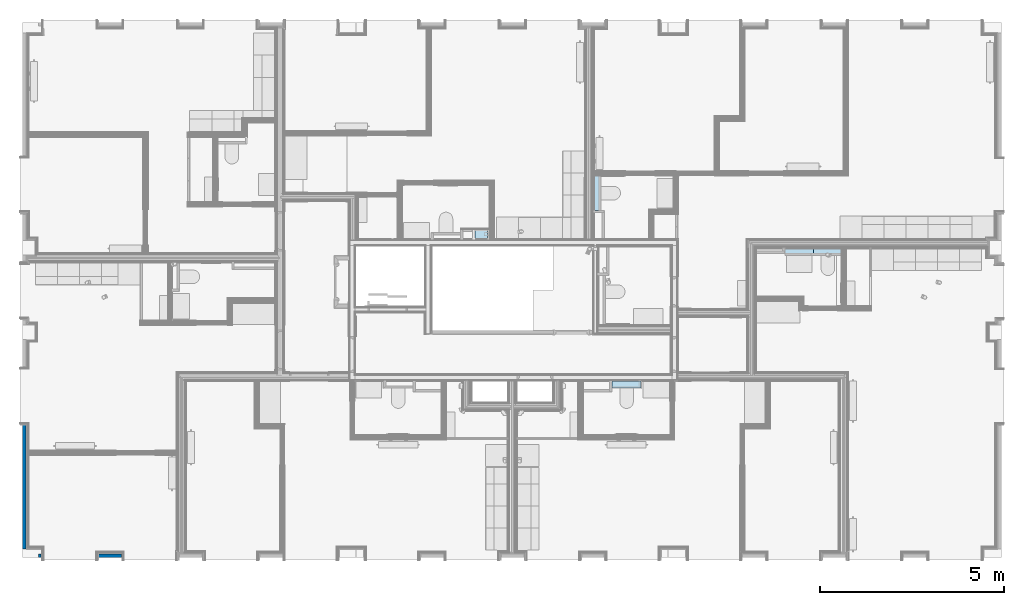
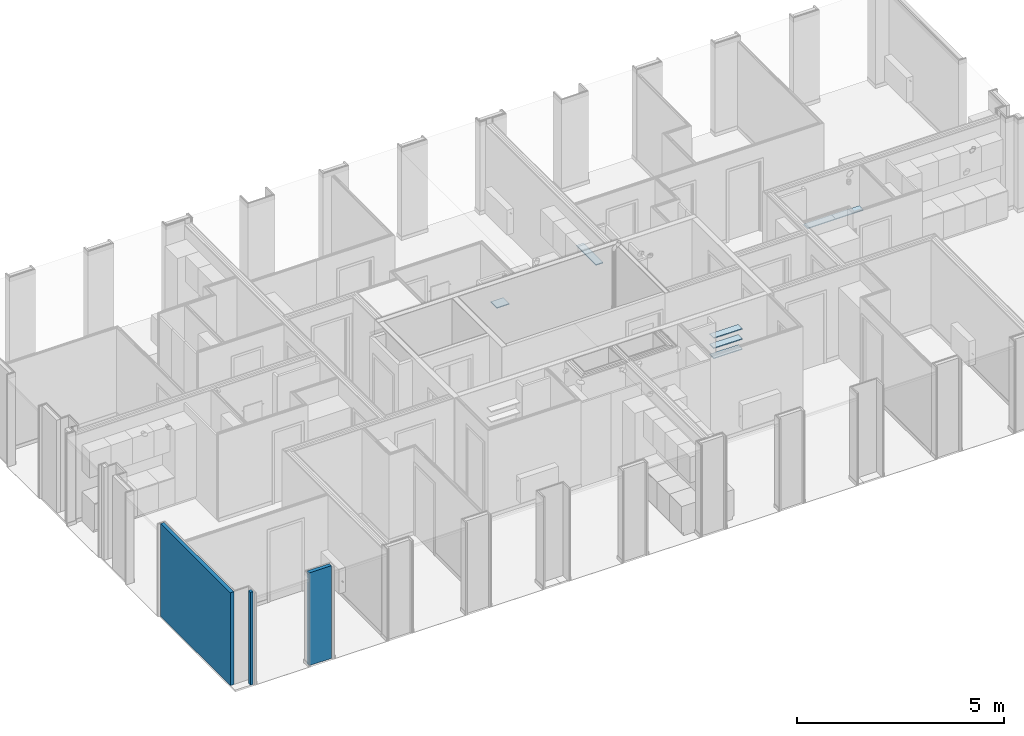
# One storey, part 1 of 85: 7 slabs, 3 walls.
"""IFC2X3 building model written with IfcOpenShell, lengths in metres."""

from ifc_helpers import new_model, entity, si_unit, converted_unit, derived_unit, money_unit, direction, frame, frame_2d, origin_with_axes, place, context, subcontext, project, spatial, rectangle, extrude, faceted_brep, material, layer, layer_set, layer_usage, type_object, element, save


model = new_model("IFC2X3")

# Units and contexts
model_context = context("Model", 3, precision=1e-05, world=origin_with_axes(), true_north=direction((0.0, 1.0)))
body_context = subcontext(model_context, "Body", "Model", "MODEL_VIEW", scale=1.0)
ifc_project = project(units=[si_unit("LENGTHUNIT", "METRE"), si_unit("AREAUNIT", "SQUARE_METRE"), si_unit("VOLUMEUNIT", "CUBIC_METRE"), si_unit("ABSORBEDDOSEUNIT", "GRAY"), si_unit("AMOUNTOFSUBSTANCEUNIT", "MOLE"), si_unit("DOSEEQUIVALENTUNIT", "SIEVERT"), si_unit("ELECTRICCAPACITANCEUNIT", "FARAD"), si_unit("ELECTRICCHARGEUNIT", "COULOMB"), si_unit("ELECTRICCONDUCTANCEUNIT", "SIEMENS"), si_unit("ELECTRICCURRENTUNIT", "AMPERE"), si_unit("ELECTRICRESISTANCEUNIT", "OHM"), si_unit("ELECTRICVOLTAGEUNIT", "VOLT"), si_unit("ENERGYUNIT", "JOULE"), si_unit("FORCEUNIT", "NEWTON"), si_unit("FREQUENCYUNIT", "HERTZ"), si_unit("ILLUMINANCEUNIT", "LUX"), si_unit("INDUCTANCEUNIT", "HENRY"), si_unit("LUMINOUSFLUXUNIT", "LUMEN"), si_unit("LUMINOUSINTENSITYUNIT", "CANDELA"), si_unit("MAGNETICFLUXDENSITYUNIT", "TESLA"), si_unit("MAGNETICFLUXUNIT", "WEBER"), si_unit("MASSUNIT", "GRAM"), converted_unit("PLANEANGLEUNIT", "degree", entity("IfcReal", 0.0174532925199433), si_unit("PLANEANGLEUNIT", "RADIAN"), dimensions=[0, 0, 0, 0, 0, 0, 0]), si_unit("POWERUNIT", "WATT"), si_unit("PRESSUREUNIT", "PASCAL"), si_unit("RADIOACTIVITYUNIT", "BECQUEREL"), si_unit("SOLIDANGLEUNIT", "STERADIAN"), si_unit("THERMODYNAMICTEMPERATUREUNIT", "KELVIN"), si_unit("TIMEUNIT", "SECOND"), derived_unit("ACCELERATIONUNIT", [(si_unit("LENGTHUNIT", "METRE"), 1), (si_unit("TIMEUNIT", "SECOND"), -2)]), derived_unit("ANGULARVELOCITYUNIT", [(converted_unit("PLANEANGLEUNIT", "degree", entity("IfcReal", 0.0174532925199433), si_unit("PLANEANGLEUNIT", "RADIAN"), dimensions=[0, 0, 0, 0, 0, 0, 0]), 1), (si_unit("TIMEUNIT", "SECOND"), -1)]), derived_unit("CURVATUREUNIT", [(converted_unit("PLANEANGLEUNIT", "degree", entity("IfcReal", 0.0174532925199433), si_unit("PLANEANGLEUNIT", "RADIAN"), dimensions=[0, 0, 0, 0, 0, 0, 0]), 1), (si_unit("LENGTHUNIT", "METRE"), -1)]), derived_unit("DYNAMICVISCOSITYUNIT", [(si_unit("PRESSUREUNIT", "PASCAL"), 1), (si_unit("TIMEUNIT", "SECOND"), 1)]), derived_unit("HEATFLUXDENSITYUNIT", [(si_unit("POWERUNIT", "WATT"), 1), (si_unit("LENGTHUNIT", "METRE"), -2)]), derived_unit("HEATINGVALUEUNIT", [(si_unit("ENERGYUNIT", "JOULE"), 1), (si_unit("MASSUNIT", "GRAM"), -1)]), derived_unit("INTEGERCOUNTRATEUNIT", [(si_unit("TIMEUNIT", "SECOND"), -1)]), derived_unit("IONCONCENTRATIONUNIT", [(si_unit("MASSUNIT", "GRAM"), 1), (si_unit("VOLUMEUNIT", "CUBIC_METRE"), -1)]), derived_unit("ISOTHERMALMOISTURECAPACITYUNIT", [(si_unit("VOLUMEUNIT", "CUBIC_METRE"), 1), (si_unit("MASSUNIT", "GRAM"), -1)]), derived_unit("KINEMATICVISCOSITYUNIT", [(si_unit("AREAUNIT", "SQUARE_METRE"), 1), (si_unit("TIMEUNIT", "SECOND"), -1)]), derived_unit("LINEARFORCEUNIT", [(si_unit("FORCEUNIT", "NEWTON"), 1), (si_unit("LENGTHUNIT", "METRE"), -1)]), derived_unit("LINEARMOMENTUNIT", [(si_unit("FORCEUNIT", "NEWTON"), 1), (si_unit("LENGTHUNIT", "METRE"), -1)]), derived_unit("LINEARSTIFFNESSUNIT", [(si_unit("FORCEUNIT", "NEWTON"), 1), (si_unit("LENGTHUNIT", "METRE"), -1)]), derived_unit("LINEARVELOCITYUNIT", [(si_unit("LENGTHUNIT", "METRE"), 1), (si_unit("TIMEUNIT", "SECOND"), -1)]), derived_unit("LUMINOUSINTENSITYDISTRIBUTIONUNIT", [(si_unit("LUMINOUSINTENSITYUNIT", "CANDELA"), 1), (si_unit("LUMINOUSFLUXUNIT", "LUMEN"), -1)]), derived_unit("MASSDENSITYUNIT", [(si_unit("MASSUNIT", "GRAM"), 1), (si_unit("VOLUMEUNIT", "CUBIC_METRE"), -1)]), derived_unit("MASSFLOWRATEUNIT", [(si_unit("MASSUNIT", "GRAM"), 1), (si_unit("TIMEUNIT", "SECOND"), -1)]), derived_unit("MASSPERLENGTHUNIT", [(si_unit("MASSUNIT", "GRAM"), 1), (si_unit("LENGTHUNIT", "METRE"), -1)]), derived_unit("MODULUSOFELASTICITYUNIT", [(si_unit("FORCEUNIT", "NEWTON"), 1), (si_unit("AREAUNIT", "SQUARE_METRE"), -1)]), derived_unit("MODULUSOFLINEARSUBGRADEREACTIONUNIT", [(si_unit("FORCEUNIT", "NEWTON"), 1), (si_unit("LENGTHUNIT", "METRE"), -2)]), derived_unit("MODULUSOFROTATIONALSUBGRADEREACTIONUNIT", [(si_unit("FORCEUNIT", "NEWTON"), 1), (si_unit("LENGTHUNIT", "METRE"), 1)]), derived_unit("MODULUSOFSUBGRADEREACTIONUNIT", [(si_unit("FORCEUNIT", "NEWTON"), 1), (si_unit("VOLUMEUNIT", "CUBIC_METRE"), -1)]), derived_unit("MOISTUREDIFFUSIVITYUNIT", [(si_unit("VOLUMEUNIT", "CUBIC_METRE"), 1), (si_unit("TIMEUNIT", "SECOND"), -1)]), derived_unit("MOLECULARWEIGHTUNIT", [(si_unit("MASSUNIT", "GRAM"), 1), (si_unit("AMOUNTOFSUBSTANCEUNIT", "MOLE"), -1)]), derived_unit("PLANARFORCEUNIT", [(si_unit("FORCEUNIT", "NEWTON"), 1), (si_unit("LENGTHUNIT", "METRE"), -2)]), derived_unit("ROTATIONALFREQUENCYUNIT", [(si_unit("TIMEUNIT", "SECOND"), -1)]), derived_unit("ROTATIONALMASSUNIT", [(si_unit("MASSUNIT", "GRAM"), 1), (si_unit("LENGTHUNIT", "METRE"), 2)]), derived_unit("ROTATIONALSTIFFNESSUNIT", [(si_unit("FORCEUNIT", "NEWTON"), 1), (si_unit("LENGTHUNIT", "METRE"), 1), (converted_unit("PLANEANGLEUNIT", "degree", entity("IfcReal", 0.0174532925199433), si_unit("PLANEANGLEUNIT", "RADIAN"), dimensions=[0, 0, 0, 0, 0, 0, 0]), -1)]), derived_unit("SECTIONAREAINTEGRALUNIT", [(si_unit("LENGTHUNIT", "METRE"), 5)]), derived_unit("SECTIONMODULUSUNIT", [(si_unit("LENGTHUNIT", "METRE"), 3)]), derived_unit("SHEARMODULUSUNIT", [(si_unit("FORCEUNIT", "NEWTON"), 1), (si_unit("AREAUNIT", "SQUARE_METRE"), -1)]), derived_unit("SOUNDPOWERUNIT", [(si_unit("ENERGYUNIT", "JOULE"), 1), (si_unit("TIMEUNIT", "SECOND"), -1)]), derived_unit("SPECIFICHEATCAPACITYUNIT", [(si_unit("FORCEUNIT", "NEWTON"), 1), (si_unit("MASSUNIT", "GRAM"), -1), (si_unit("THERMODYNAMICTEMPERATUREUNIT", "KELVIN"), -1)]), derived_unit("TEMPERATUREGRADIENTUNIT", [(si_unit("THERMODYNAMICTEMPERATUREUNIT", "KELVIN"), 1), (si_unit("LENGTHUNIT", "METRE"), -1)]), derived_unit("THERMALADMITTANCEUNIT", [(si_unit("POWERUNIT", "WATT"), 1), (si_unit("AREAUNIT", "SQUARE_METRE"), -1), (si_unit("THERMODYNAMICTEMPERATUREUNIT", "KELVIN"), -1)]), derived_unit("THERMALCONDUCTANCEUNIT", [(si_unit("POWERUNIT", "WATT"), 1), (si_unit("LENGTHUNIT", "METRE"), -1), (si_unit("THERMODYNAMICTEMPERATUREUNIT", "KELVIN"), -1)]), derived_unit("THERMALEXPANSIONCOEFFICIENTUNIT", [(si_unit("THERMODYNAMICTEMPERATUREUNIT", "KELVIN"), -1)]), derived_unit("THERMALRESISTANCEUNIT", [(si_unit("AREAUNIT", "SQUARE_METRE"), 1), (si_unit("POWERUNIT", "WATT"), -1)]), derived_unit("THERMALTRANSMITTANCEUNIT", [(si_unit("POWERUNIT", "WATT"), 1), (si_unit("AREAUNIT", "SQUARE_METRE"), -1), (si_unit("THERMODYNAMICTEMPERATUREUNIT", "KELVIN"), -1)]), derived_unit("TORQUEUNIT", [(si_unit("FORCEUNIT", "NEWTON"), 1), (si_unit("LENGTHUNIT", "METRE"), 1)]), derived_unit("VAPORPERMEABILITYUNIT", [(si_unit("MASSUNIT", "GRAM"), 1), (si_unit("TIMEUNIT", "SECOND"), -1)]), derived_unit("VOLUMETRICFLOWRATEUNIT", [(si_unit("VOLUMEUNIT", "CUBIC_METRE"), 1), (si_unit("TIMEUNIT", "SECOND"), -1)]), derived_unit("WARPINGCONSTANTUNIT", [(si_unit("LENGTHUNIT", "METRE"), 6)]), derived_unit("WARPINGMOMENTUNIT", [(si_unit("FORCEUNIT", "NEWTON"), 1), (si_unit("LENGTHUNIT", "METRE"), 2)]), money_unit("GBP")], contexts=[model_context])

# Site, building, storey
site_placement = place(None, origin_with_axes())
site = spatial("IfcSite", under=ifc_project, at=site_placement, Name="Site", CompositionType="ELEMENT")
building_placement = place(site_placement, origin_with_axes())
building = spatial("IfcBuilding", under=site, at=building_placement, Name="Building01", CompositionType="ELEMENT")
storey_placement = place(building_placement, frame((0.0, 0.0, 12.13), z_axis=(0.0, 0.0, 1.0), x_axis=(1.0, 0.0, 0.0)))
storey = spatial("IfcBuildingStorey", under=building, at=storey_placement, Name="3F", CompositionType="ELEMENT", Elevation=12.13)

# Slabs
ifc_material_1 = material(Name="A_BSUK_Ceramic_WallTiles")
slab_type = type_object("IfcSlabType", Name="A-FloorsSlabs A_BSUK_Slabs", PredefinedType="FLOOR")
for number, where, z_axis, x_axis, name in (
    (1, (17.0075, 4.779998, 1.375), (0.0, 0.0, 1.0), (1.0, 0.0, 0.0), "A-FloorsSlabs A_BSUK_Slabs"),
    (2, (17.0075, 4.779998, 1.675), (0.0, 0.0, 1.0), (1.0, 0.0, 0.0), "A-FloorsSlabs A_BSUK_Slabs"),
    (3, (17.0075, 4.779998, 1.975), (0.0, 0.0, 1.0), (1.0, 0.0, 0.0), "A-FloorsSlabs A_BSUK_Slabs"),
):
    element("IfcSlab", number, at=place(storey_placement, frame(where, z_axis=z_axis, x_axis=x_axis)), inside=storey, type_object=slab_type, material=ifc_material_1, Name=name, ObjectType="A-FloorsSlabs A_BSUK_Slabs", context=body_context, shape_type="Brep", body=[
        faceted_brep([(0.0, 0.200002, 0.0), (0.0, 0.200002, 0.025), (0.0, 0.0, 0.025), (0.0, 0.0, 0.0), (-0.8, 3e-06, 0.025), (-0.8, 3e-06, 0.0), (-0.799999, 0.200002, 0.025), (-0.799999, 0.200002, 0.0)], [[[0, 1, 2, 3]], [[3, 2, 4, 5]], [[5, 4, 6, 7]], [[7, 6, 1, 0]], [[1, 6, 4, 2]], [[3, 5, 7, 0]]]),
    ])
placement = place(storey_placement, frame((0.0, 0.0, -12.13), z_axis=(0.0, 0.0, 1.0), x_axis=(1.0, 0.0, 0.0)))
element("IfcSlab", 4, at=placement, inside=storey, type_object=slab_type, material=ifc_material_1, Name="A-FloorsSlabs A_BSUK_Slabs", ObjectType="CompoundSlabLeaf", context=body_context, shape_type="Brep", body=[
    faceted_brep([(12.478585, 8.82, 13.849973), (12.478585, 8.82, 13.874973), (12.478585, 9.12, 13.874973), (12.478585, 9.12, 13.849973), (12.828585, 8.82, 13.849973), (12.828585, 8.82, 13.874973), (12.828585, 9.12, 13.849973), (12.828585, 9.12, 13.874973)], [[[0, 1, 2, 3]], [[4, 5, 1, 0]], [[6, 7, 5, 4]], [[3, 2, 7, 6]], [[1, 5, 7, 2]], [[3, 6, 4, 0]]]),
])
element("IfcSlab", 5, at=placement, inside=storey, type_object=slab_type, material=ifc_material_1, Name="A-FloorsSlabs A_BSUK_Slabs", ObjectType="CompoundSlabLeaf", context=body_context, shape_type="Brep", body=[
    faceted_brep([(15.908132, 9.62, 13.505), (15.908132, 9.62, 13.53), (15.708132, 9.62, 13.53), (15.708132, 9.62, 13.505), (15.908132, 10.57, 13.505), (15.908132, 10.57, 13.53), (15.708132, 10.57, 13.505), (15.708132, 10.57, 13.53)], [[[0, 1, 2, 3]], [[4, 5, 1, 0]], [[6, 7, 5, 4]], [[3, 2, 7, 6]], [[1, 5, 7, 2]], [[3, 6, 4, 0]]]),
])
element("IfcSlab", 6, at=placement, inside=storey, type_object=slab_type, material=ifc_material_1, Name="A-FloorsSlabs A_BSUK_Slabs", ObjectType="CompoundSlabLeaf", context=body_context, shape_type="Brep", body=[
    faceted_brep([(22.476661, 8.595, 13.505), (22.476661, 8.595, 13.53), (22.476661, 8.395001, 13.53), (22.476661, 8.395001, 13.505), (21.699661, 8.594999, 13.505), (21.699661, 8.594999, 13.53), (21.699661, 8.395003, 13.505), (21.699661, 8.395003, 13.53)], [[[0, 1, 2, 3]], [[4, 5, 1, 0]], [[6, 7, 5, 4]], [[3, 2, 7, 6]], [[1, 5, 7, 2]], [[3, 6, 4, 0]]]),
])
element("IfcSlab", 7, at=placement, inside=storey, type_object=slab_type, material=ifc_material_1, Name="A-FloorsSlabs A_BSUK_Slabs", ObjectType="CompoundSlabLeaf", context=body_context, shape_type="Brep", body=[
    faceted_brep([(21.699661, 8.595, 13.505), (21.699661, 8.595, 13.53), (21.699661, 8.395003, 13.53), (21.699661, 8.395003, 13.505), (20.922661, 8.595, 13.505), (20.922661, 8.595, 13.53), (20.922661, 8.394685, 13.505), (20.922661, 8.394685, 13.53)], [[[0, 1, 2, 3]], [[4, 5, 1, 0]], [[6, 7, 5, 4]], [[3, 2, 7, 6]], [[1, 5, 7, 2]], [[3, 6, 4, 0]]]),
])

# Walls
ifc_material_2 = material(Name="A_BSUK_WallsExternal_Block")
ifc_layer = layer(ifc_material_2, 0.1, ventilated=False)
ifc_layer_set = layer_set([ifc_layer])
ifc_layer_usage = layer_usage(ifc_layer_set, "AXIS2", "POSITIVE", 0.0)
wall_type = type_object("IfcWallType", Name="A-Walls-ExternalBlock", PredefinedType="NOTDEFINED")
wall_1_placement = place(storey_placement, frame((0.17, 3.77418, 0.0), z_axis=(0.0, 0.0, 1.0), x_axis=(0.0, -1.0, 0.0)))
element("IfcWallStandardCase", 8, at=wall_1_placement, inside=storey, type_object=wall_type, material=ifc_layer_usage, Name="A-Walls-ExternalBlock", ObjectType="A-Walls-ExternalBlock", context=body_context, shape_type="SweptSolid", body=[
    extrude(rectangle(XDim=3.37418, YDim=0.1, at=frame_2d((1.68709, 0.05), x_axis=(1.0, 0.0))), origin_with_axes(), (0.0, 0.0, 1.0), 2.74),
])
wall_2_placement = place(storey_placement, frame((0.677, 0.27, 0.0), z_axis=(0.0, 0.0, 1.0), x_axis=(-1.0, 0.0, 0.0)))
element("IfcWallStandardCase", 9, at=wall_2_placement, inside=storey, type_object=wall_type, material=ifc_layer_usage, Name="A-Walls-ExternalBlock", ObjectType="A-Walls-ExternalBlock", context=body_context, shape_type="SweptSolid", body=[
    extrude(rectangle(XDim=0.077, YDim=0.1, at=frame_2d((0.0385, 0.05), x_axis=(1.0, 0.0))), origin_with_axes(), (0.0, 0.0, 1.0), 2.74),
])
wall_3_placement = place(storey_placement, frame((2.867, 0.27, 0.0), z_axis=(0.0, 0.0, 1.0), x_axis=(-1.0, 0.0, 0.0)))
element("IfcWallStandardCase", 10, at=wall_3_placement, inside=storey, type_object=wall_type, material=ifc_layer_usage, Name="A-Walls-ExternalBlock", ObjectType="A-Walls-ExternalBlock", context=body_context, shape_type="SweptSolid", body=[
    extrude(rectangle(XDim=0.624, YDim=0.1, at=frame_2d((0.312, 0.05), x_axis=(-1.0, 0.0))), origin_with_axes(), (0.0, 0.0, 1.0), 2.74),
])

save(model, "model.ifc")
